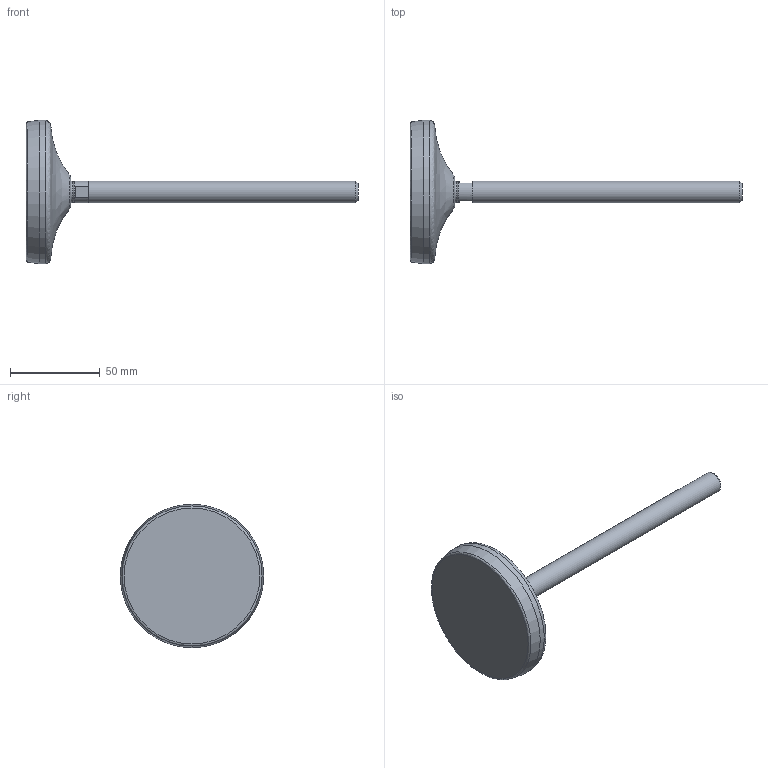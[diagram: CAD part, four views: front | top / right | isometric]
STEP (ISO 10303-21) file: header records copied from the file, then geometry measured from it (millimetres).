
FILE_DESCRIPTION(('STEP AP203'),'2;1');
FILE_NAME('25006-12.stp','2013-10-16T14:04:37',(''),(''),'2008.1.107','THINKDESIGN','');
FILE_SCHEMA(('CONFIG_CONTROL_DESIGN'));
Length unit declared in the file: millimetre
Bounding box: 185 x 80 x 80 mm (x, y, z)
Volume: 99037.8 mm3; surface area: 29783.3 mm2
Topology: 5 solids, 5 shells, 25 faces, 54 edges, 39 vertices
Faces by surface type: plane 14, bspline 7, cylinder 4
Full cylindrical faces by diameter (mm): 12 x3, 80 x1
Entity records: 1165 total; most frequent: CARTESIAN_POINT 504, DIRECTION 130, ORIENTED_EDGE 108, AXIS2_PLACEMENT_3D 58, EDGE_CURVE 54, CIRCLE 40, VERTEX_POINT 39, EDGE_LOOP 25
